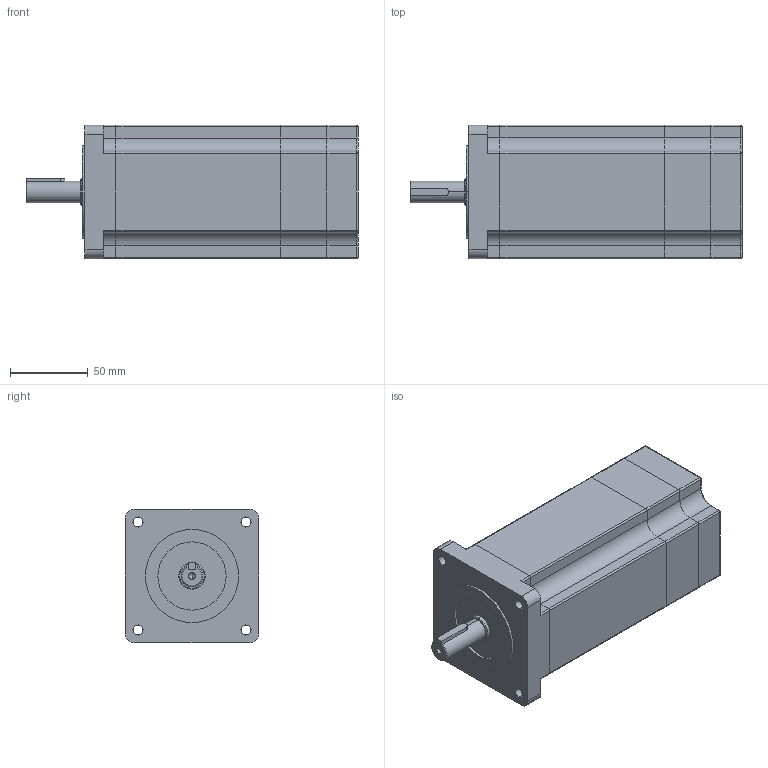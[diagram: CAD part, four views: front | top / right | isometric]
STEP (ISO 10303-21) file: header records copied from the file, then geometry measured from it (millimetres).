
FILE_DESCRIPTION (( 'STEP AP203' ), '1' );
FILE_NAME ('TM3402C30A-P1000.STEP', '2019-02-20T06:21:48', ( 'User' ), ( 'www.dadighost.com' ), 'SwSTEP 2.0', 'SolidWorks 2014', '' );
FILE_SCHEMA (( 'CONFIG_CONTROL_DESIGN' ));
Length unit declared in the file: millimetre
Products named in the file (1): TM3402C30A-P1000
Bounding box: 214 x 86 x 86 mm (x, y, z)
Volume: 1122686.3 mm3; surface area: 113211.8 mm2
Topology: 5 solids, 5 shells, 175 faces, 453 edges, 283 vertices
Faces by surface type: cylinder 85, plane 72, sphere 8, torus 6, cone 4
Entity records: 5394 total; most frequent: DIRECTION 969, CARTESIAN_POINT 940, ORIENTED_EDGE 886, EDGE_CURVE 443, AXIS2_PLACEMENT_3D 354, VERTEX_POINT 283, VECTOR 261, LINE 261
